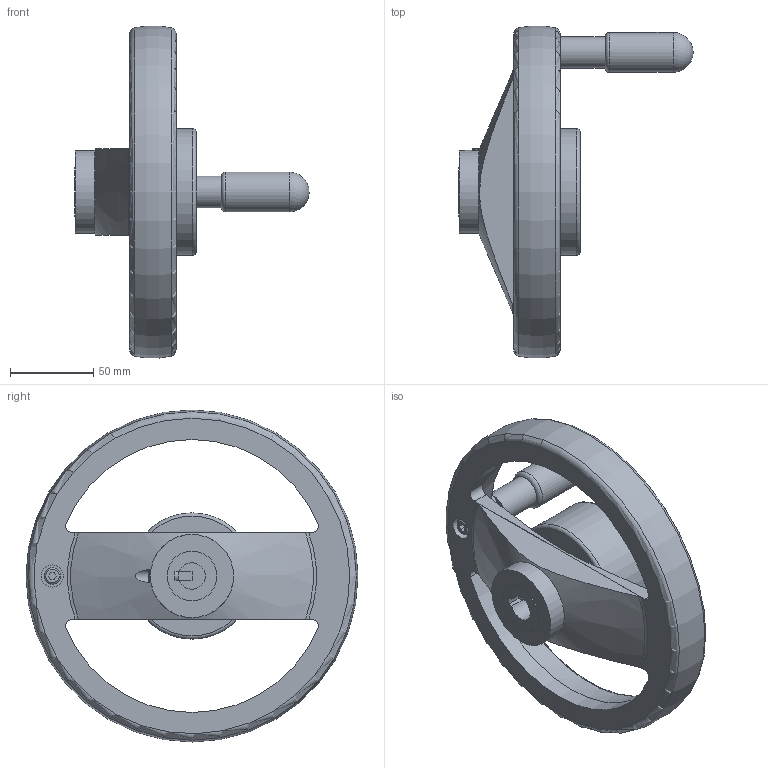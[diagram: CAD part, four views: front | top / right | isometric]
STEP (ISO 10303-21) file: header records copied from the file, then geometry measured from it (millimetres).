
FILE_DESCRIPTION( ( 'STEP AP203' ), '1' );
FILE_NAME( 'C:/Temp/Ganter_Step_05_03_2020/data/1_4/gn_522_8/gn_522_8_k/gn_522_8_k_d/Spoked handwheel GN 522.8-200-K16-D.stp', '2020-03-05T10:53:34', ( 'License CC BY-ND 4.0' ), ( 'CADENAS' ), ' ', 'PARTsolutions', ' ' );
FILE_SCHEMA( ( 'CONFIG_CONTROL_DESIGN' ) );
Length unit declared in the file: millimetre
Products named in the file (1): _Spoked handwheel GN 522.8-200-K16-D
Bounding box: 141 x 199.73 x 199.73 mm (x, y, z)
Volume: 496888.9 mm3; surface area: 102786.3 mm2
Topology: 1 solids, 1 shells, 103 faces, 250 edges, 163 vertices
Faces by surface type: plane 53, cylinder 33, torus 9, cone 7, sphere 1
Full cylindrical faces by diameter (mm): 6 x4, 10 x1, 13.333 x1, 14.25 x1, 19 x1, 24 x1, 30 x1, 50 x1, 67 x1, 68.8 x1, 76 x1
Entity records: 3252 total; most frequent: CARTESIAN_POINT 960, DIRECTION 460, ORIENTED_EDGE 426, EDGE_CURVE 213, AXIS2_PLACEMENT_3D 184, VERTEX_POINT 152, EDGE_LOOP 148, FACE_OUTER_BOUND 123
